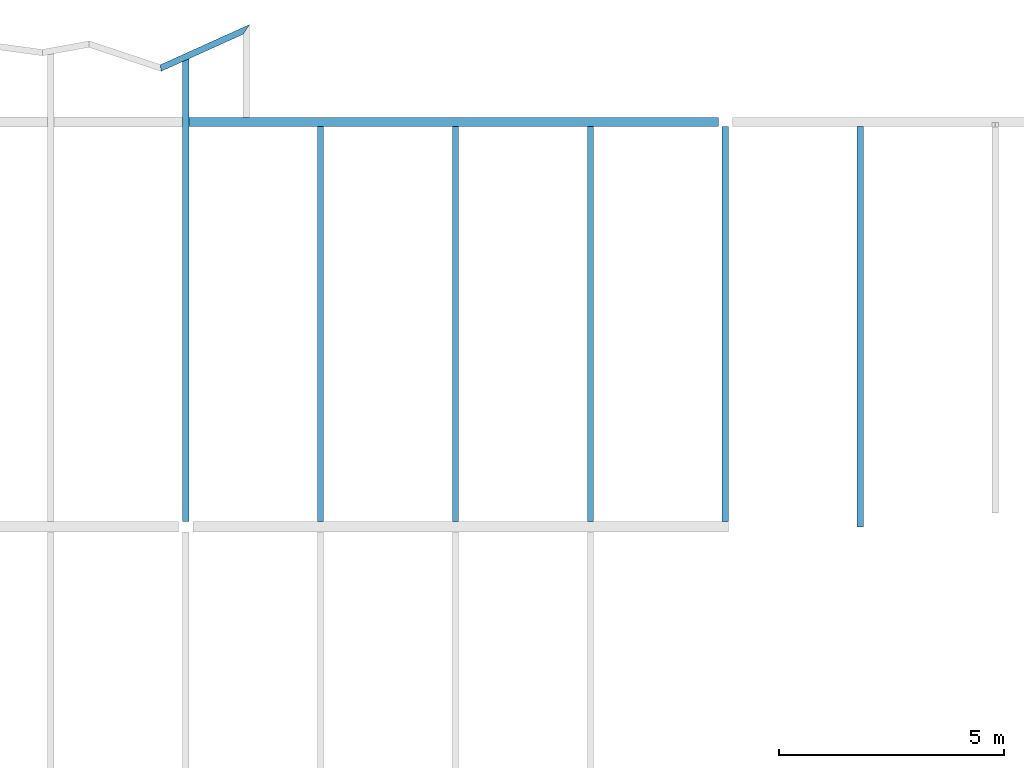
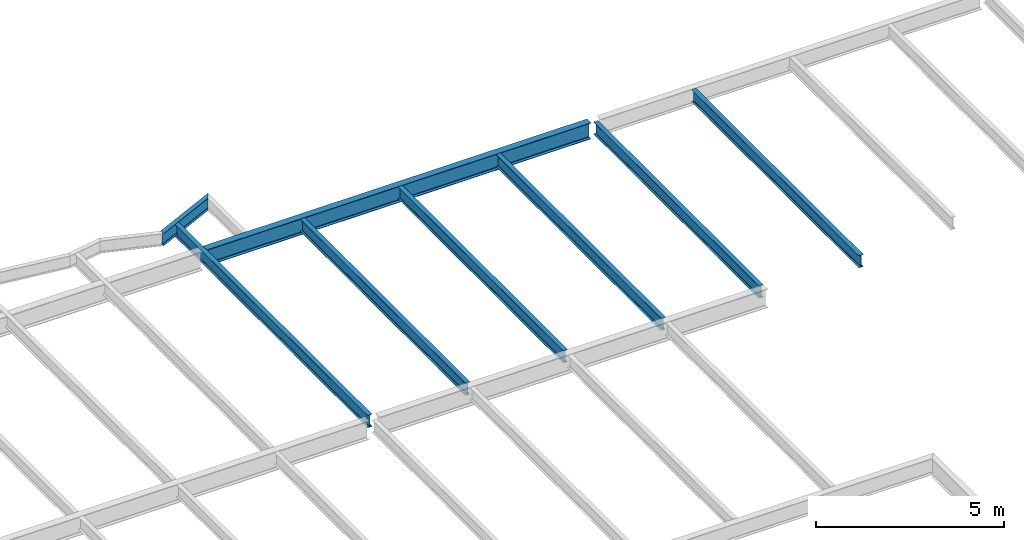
# One storey, part 9 of 21: 8 beams.
"""IFC2X3 building model written with IfcOpenShell, lengths in millimetres."""

from ifc_helpers import new_model, si_unit, origin, place, context, project, spatial, faceted_brep, material, element, save


model = new_model("IFC2X3")

# Units and contexts
context_of_model = context(None, 3, precision=1e-05, world=origin())
ifc_project = project(units=[si_unit("LENGTHUNIT", "METRE", prefix="MILLI")], contexts=[context_of_model])

# Building, storey
building = spatial("IfcBuilding", under=ifc_project, Name="Building", CompositionType="ELEMENT")
storey = spatial("IfcBuildingStorey", under=building, Name="FL3-FRM", CompositionType="ELEMENT")

# Beams
ifc_material_1 = material(Name="A992")
beam_1_placement = place(None, origin())
element("IfcBeam", 1, at=beam_1_placement, inside=storey, material=ifc_material_1, Name="Column459", context=context_of_model, shape_type="Brep", body=[
    faceted_brep([(-11930.0, 35895.5, 8345.0), (-11930.0, 36104.5, 8345.0), (-154.0, 36104.5, 8345.0), (-154.0, 35895.5, 8345.0), (-11930.0, 36104.5, 8358.3), (-154.0, 36104.5, 8358.3), (-11930.0, 36017.4, 8358.3), (-154.0, 36017.4, 8358.3), (-11930.0, 36014.2, 8358.73), (-154.0, 36014.2, 8358.73), (-11930.0, 36011.1, 8360.0), (-154.0, 36011.1, 8360.0), (-11930.0, 36008.5, 8362.02), (-154.0, 36008.5, 8362.02), (-11930.0, 36006.5, 8364.65), (-154.0, 36006.5, 8364.65), (-11930.0, 36005.2, 8367.71), (-154.0, 36005.2, 8367.71), (-11930.0, 36004.8, 8371.0), (-154.0, 36004.8, 8371.0), (-11930.0, 36004.8, 8847.0), (-154.0, 36004.8, 8847.0), (-11930.0, 36005.2, 8850.29), (-154.0, 36005.2, 8850.29), (-11930.0, 36006.5, 8853.35), (-154.0, 36006.5, 8853.35), (-11930.0, 36008.5, 8855.98), (-154.0, 36008.5, 8855.98), (-11930.0, 36011.1, 8858.0), (-154.0, 36011.1, 8858.0), (-11930.0, 36014.2, 8859.27), (-154.0, 36014.2, 8859.27), (-11930.0, 36017.4, 8859.7), (-154.0, 36017.4, 8859.7), (-11930.0, 36104.5, 8859.7), (-154.0, 36104.5, 8859.7), (-11930.0, 36104.5, 8873.0), (-154.0, 36104.5, 8873.0), (-11930.0, 35895.5, 8873.0), (-154.0, 35895.5, 8873.0), (-11930.0, 35895.5, 8859.7), (-154.0, 35895.5, 8859.7), (-11930.0, 35982.6, 8859.7), (-154.0, 35982.6, 8859.7), (-11930.0, 35985.8, 8859.27), (-154.0, 35985.8, 8859.27), (-11930.0, 35988.9, 8858.0), (-154.0, 35988.9, 8858.0), (-11930.0, 35991.5, 8855.98), (-154.0, 35991.5, 8855.98), (-11930.0, 35993.5, 8853.35), (-154.0, 35993.5, 8853.35), (-11930.0, 35994.8, 8850.29), (-154.0, 35994.8, 8850.29), (-11930.0, 35995.3, 8847.0), (-154.0, 35995.3, 8847.0), (-11930.0, 35995.3, 8371.0), (-154.0, 35995.3, 8371.0), (-11930.0, 35994.8, 8367.71), (-154.0, 35994.8, 8367.71), (-11930.0, 35993.5, 8364.65), (-154.0, 35993.5, 8364.65), (-11930.0, 35991.5, 8362.02), (-154.0, 35991.5, 8362.02), (-11930.0, 35988.9, 8360.0), (-154.0, 35988.9, 8360.0), (-11930.0, 35985.8, 8358.73), (-154.0, 35985.8, 8358.73), (-11930.0, 35982.6, 8358.3), (-154.0, 35982.6, 8358.3), (-11930.0, 35895.5, 8358.3), (-154.0, 35895.5, 8358.3)], [[[0, 1, 2, 3]], [[1, 4, 5, 2]], [[4, 6, 7, 5]], [[6, 8, 9, 7]], [[8, 10, 11, 9]], [[10, 12, 13, 11]], [[12, 14, 15, 13]], [[14, 16, 17, 15]], [[16, 18, 19, 17]], [[18, 20, 21, 19]], [[20, 22, 23, 21]], [[22, 24, 25, 23]], [[24, 26, 27, 25]], [[26, 28, 29, 27]], [[28, 30, 31, 29]], [[30, 32, 33, 31]], [[32, 34, 35, 33]], [[34, 36, 37, 35]], [[36, 38, 39, 37]], [[38, 40, 41, 39]], [[40, 42, 43, 41]], [[42, 44, 45, 43]], [[44, 46, 47, 45]], [[46, 48, 49, 47]], [[48, 50, 51, 49]], [[50, 52, 53, 51]], [[52, 54, 55, 53]], [[54, 56, 57, 55]], [[56, 58, 59, 57]], [[58, 60, 61, 59]], [[60, 62, 63, 61]], [[62, 64, 65, 63]], [[64, 66, 67, 65]], [[66, 68, 69, 67]], [[68, 70, 71, 69]], [[70, 0, 3, 71]], [[0, 70, 68, 66, 64, 62, 60, 58, 56, 54, 52, 50, 48, 46, 44, 42, 40, 38, 36, 34, 32, 30, 28, 26, 24, 22, 20, 18, 16, 14, 12, 10, 8, 6, 4, 1]], [[3, 2, 5, 7, 9, 11, 13, 15, 17, 19, 21, 23, 25, 27, 29, 31, 33, 35, 37, 39, 41, 43, 45, 47, 49, 51, 53, 55, 57, 59, 61, 63, 65, 67, 69, 71]]]),
])
ifc_material_2 = material(Name="A992")
beam_2_placement = place(None, origin())
element("IfcBeam", 2, at=beam_2_placement, inside=storey, material=ifc_material_2, Name="B413", context=context_of_model, shape_type="Brep", body=[
    faceted_brep([(-9070.0, 35895.5, 8474.0), (-8930.0, 35895.5, 8474.0), (-8930.0, 27114.5, 8474.0), (-9070.0, 27114.5, 8474.0), (-8930.0, 35895.5, 8482.8), (-8930.0, 27114.5, 8482.8), (-8986.6, 35895.5, 8482.8), (-8986.6, 27114.5, 8482.8), (-8989.24, 35895.5, 8483.15), (-8989.24, 27114.5, 8483.15), (-8991.7, 35895.5, 8484.17), (-8991.7, 27114.5, 8484.17), (-8993.81, 35895.5, 8485.79), (-8993.81, 27114.5, 8485.79), (-8995.43, 35895.5, 8487.9), (-8995.43, 27114.5, 8487.9), (-8996.45, 35895.5, 8490.36), (-8996.45, 27114.5, 8490.36), (-8996.8, 35895.5, 8493.0), (-8996.8, 27114.5, 8493.0), (-8996.8, 35895.5, 8854.0), (-8996.8, 27114.5, 8854.0), (-8996.45, 35895.5, 8856.64), (-8996.45, 27114.5, 8856.64), (-8995.43, 35895.5, 8859.1), (-8995.43, 27114.5, 8859.1), (-8993.81, 35895.5, 8861.21), (-8993.81, 27114.5, 8861.21), (-8991.7, 35895.5, 8862.83), (-8991.7, 27114.5, 8862.83), (-8989.24, 35895.5, 8863.85), (-8989.24, 27114.5, 8863.85), (-8986.6, 35895.5, 8864.2), (-8986.6, 27114.5, 8864.2), (-8930.0, 35895.5, 8864.2), (-8930.0, 27114.5, 8864.2), (-8930.0, 35895.5, 8873.0), (-8930.0, 27114.5, 8873.0), (-9070.0, 35895.5, 8873.0), (-9070.0, 27114.5, 8873.0), (-9070.0, 35895.5, 8864.2), (-9070.0, 27114.5, 8864.2), (-9013.4, 35895.5, 8864.2), (-9013.4, 27114.5, 8864.2), (-9010.76, 35895.5, 8863.85), (-9010.76, 27114.5, 8863.85), (-9008.3, 35895.5, 8862.83), (-9008.3, 27114.5, 8862.83), (-9006.19, 35895.5, 8861.21), (-9006.19, 27114.5, 8861.21), (-9004.57, 35895.5, 8859.1), (-9004.57, 27114.5, 8859.1), (-9003.55, 35895.5, 8856.64), (-9003.55, 27114.5, 8856.64), (-9003.2, 35895.5, 8854.0), (-9003.2, 27114.5, 8854.0), (-9003.2, 35895.5, 8493.0), (-9003.2, 27114.5, 8493.0), (-9003.55, 35895.5, 8490.36), (-9003.55, 27114.5, 8490.36), (-9004.57, 35895.5, 8487.9), (-9004.57, 27114.5, 8487.9), (-9006.19, 35895.5, 8485.79), (-9006.19, 27114.5, 8485.79), (-9008.3, 35895.5, 8484.17), (-9008.3, 27114.5, 8484.17), (-9010.76, 35895.5, 8483.15), (-9010.76, 27114.5, 8483.15), (-9013.4, 35895.5, 8482.8), (-9013.4, 27114.5, 8482.8), (-9070.0, 35895.5, 8482.8), (-9070.0, 27114.5, 8482.8)], [[[0, 1, 2, 3]], [[1, 4, 5, 2]], [[4, 6, 7, 5]], [[6, 8, 9, 7]], [[8, 10, 11, 9]], [[10, 12, 13, 11]], [[12, 14, 15, 13]], [[14, 16, 17, 15]], [[16, 18, 19, 17]], [[18, 20, 21, 19]], [[20, 22, 23, 21]], [[22, 24, 25, 23]], [[24, 26, 27, 25]], [[26, 28, 29, 27]], [[28, 30, 31, 29]], [[30, 32, 33, 31]], [[32, 34, 35, 33]], [[34, 36, 37, 35]], [[36, 38, 39, 37]], [[38, 40, 41, 39]], [[40, 42, 43, 41]], [[42, 44, 45, 43]], [[44, 46, 47, 45]], [[46, 48, 49, 47]], [[48, 50, 51, 49]], [[50, 52, 53, 51]], [[52, 54, 55, 53]], [[54, 56, 57, 55]], [[56, 58, 59, 57]], [[58, 60, 61, 59]], [[60, 62, 63, 61]], [[62, 64, 65, 63]], [[64, 66, 67, 65]], [[66, 68, 69, 67]], [[68, 70, 71, 69]], [[70, 0, 3, 71]], [[0, 70, 68, 66, 64, 62, 60, 58, 56, 54, 52, 50, 48, 46, 44, 42, 40, 38, 36, 34, 32, 30, 28, 26, 24, 22, 20, 18, 16, 14, 12, 10, 8, 6, 4, 1]], [[3, 2, 5, 7, 9, 11, 13, 15, 17, 19, 21, 23, 25, 27, 29, 31, 33, 35, 37, 39, 41, 43, 45, 47, 49, 51, 53, 55, 57, 59, 61, 63, 65, 67, 69, 71]]]),
])
ifc_material_3 = material(Name="A992")
beam_3_placement = place(None, origin())
element("IfcBeam", 3, at=beam_3_placement, inside=storey, material=ifc_material_3, Name="B414", context=context_of_model, shape_type="Brep", body=[
    faceted_brep([(-6070.0, 35895.5, 8474.0), (-5930.0, 35895.5, 8474.0), (-5930.0, 27114.5, 8474.0), (-6070.0, 27114.5, 8474.0), (-5930.0, 35895.5, 8482.8), (-5930.0, 27114.5, 8482.8), (-5986.6, 35895.5, 8482.8), (-5986.6, 27114.5, 8482.8), (-5989.24, 35895.5, 8483.15), (-5989.24, 27114.5, 8483.15), (-5991.7, 35895.5, 8484.17), (-5991.7, 27114.5, 8484.17), (-5993.81, 35895.5, 8485.79), (-5993.81, 27114.5, 8485.79), (-5995.43, 35895.5, 8487.9), (-5995.43, 27114.5, 8487.9), (-5996.45, 35895.5, 8490.36), (-5996.45, 27114.5, 8490.36), (-5996.8, 35895.5, 8493.0), (-5996.8, 27114.5, 8493.0), (-5996.8, 35895.5, 8854.0), (-5996.8, 27114.5, 8854.0), (-5996.45, 35895.5, 8856.64), (-5996.45, 27114.5, 8856.64), (-5995.43, 35895.5, 8859.1), (-5995.43, 27114.5, 8859.1), (-5993.81, 35895.5, 8861.21), (-5993.81, 27114.5, 8861.21), (-5991.7, 35895.5, 8862.83), (-5991.7, 27114.5, 8862.83), (-5989.24, 35895.5, 8863.85), (-5989.24, 27114.5, 8863.85), (-5986.6, 35895.5, 8864.2), (-5986.6, 27114.5, 8864.2), (-5930.0, 35895.5, 8864.2), (-5930.0, 27114.5, 8864.2), (-5930.0, 35895.5, 8873.0), (-5930.0, 27114.5, 8873.0), (-6070.0, 35895.5, 8873.0), (-6070.0, 27114.5, 8873.0), (-6070.0, 35895.5, 8864.2), (-6070.0, 27114.5, 8864.2), (-6013.4, 35895.5, 8864.2), (-6013.4, 27114.5, 8864.2), (-6010.76, 35895.5, 8863.85), (-6010.76, 27114.5, 8863.85), (-6008.3, 35895.5, 8862.83), (-6008.3, 27114.5, 8862.83), (-6006.19, 35895.5, 8861.21), (-6006.19, 27114.5, 8861.21), (-6004.57, 35895.5, 8859.1), (-6004.57, 27114.5, 8859.1), (-6003.55, 35895.5, 8856.64), (-6003.55, 27114.5, 8856.64), (-6003.2, 35895.5, 8854.0), (-6003.2, 27114.5, 8854.0), (-6003.2, 35895.5, 8493.0), (-6003.2, 27114.5, 8493.0), (-6003.55, 35895.5, 8490.36), (-6003.55, 27114.5, 8490.36), (-6004.57, 35895.5, 8487.9), (-6004.57, 27114.5, 8487.9), (-6006.19, 35895.5, 8485.79), (-6006.19, 27114.5, 8485.79), (-6008.3, 35895.5, 8484.17), (-6008.3, 27114.5, 8484.17), (-6010.76, 35895.5, 8483.15), (-6010.76, 27114.5, 8483.15), (-6013.4, 35895.5, 8482.8), (-6013.4, 27114.5, 8482.8), (-6070.0, 35895.5, 8482.8), (-6070.0, 27114.5, 8482.8)], [[[0, 1, 2, 3]], [[1, 4, 5, 2]], [[4, 6, 7, 5]], [[6, 8, 9, 7]], [[8, 10, 11, 9]], [[10, 12, 13, 11]], [[12, 14, 15, 13]], [[14, 16, 17, 15]], [[16, 18, 19, 17]], [[18, 20, 21, 19]], [[20, 22, 23, 21]], [[22, 24, 25, 23]], [[24, 26, 27, 25]], [[26, 28, 29, 27]], [[28, 30, 31, 29]], [[30, 32, 33, 31]], [[32, 34, 35, 33]], [[34, 36, 37, 35]], [[36, 38, 39, 37]], [[38, 40, 41, 39]], [[40, 42, 43, 41]], [[42, 44, 45, 43]], [[44, 46, 47, 45]], [[46, 48, 49, 47]], [[48, 50, 51, 49]], [[50, 52, 53, 51]], [[52, 54, 55, 53]], [[54, 56, 57, 55]], [[56, 58, 59, 57]], [[58, 60, 61, 59]], [[60, 62, 63, 61]], [[62, 64, 65, 63]], [[64, 66, 67, 65]], [[66, 68, 69, 67]], [[68, 70, 71, 69]], [[70, 0, 3, 71]], [[0, 70, 68, 66, 64, 62, 60, 58, 56, 54, 52, 50, 48, 46, 44, 42, 40, 38, 36, 34, 32, 30, 28, 26, 24, 22, 20, 18, 16, 14, 12, 10, 8, 6, 4, 1]], [[3, 2, 5, 7, 9, 11, 13, 15, 17, 19, 21, 23, 25, 27, 29, 31, 33, 35, 37, 39, 41, 43, 45, 47, 49, 51, 53, 55, 57, 59, 61, 63, 65, 67, 69, 71]]]),
])
ifc_material_4 = material(Name="A992")
beam_4_placement = place(None, origin())
element("IfcBeam", 4, at=beam_4_placement, inside=storey, material=ifc_material_4, Name="B415", context=context_of_model, shape_type="Brep", body=[
    faceted_brep([(-3070.0, 35895.5, 8474.0), (-2930.0, 35895.5, 8474.0), (-2930.0, 27114.5, 8474.0), (-3070.0, 27114.5, 8474.0), (-2930.0, 35895.5, 8482.8), (-2930.0, 27114.5, 8482.8), (-2986.6, 35895.5, 8482.8), (-2986.6, 27114.5, 8482.8), (-2989.24, 35895.5, 8483.15), (-2989.24, 27114.5, 8483.15), (-2991.7, 35895.5, 8484.17), (-2991.7, 27114.5, 8484.17), (-2993.81, 35895.5, 8485.79), (-2993.81, 27114.5, 8485.79), (-2995.43, 35895.5, 8487.9), (-2995.43, 27114.5, 8487.9), (-2996.45, 35895.5, 8490.36), (-2996.45, 27114.5, 8490.36), (-2996.8, 35895.5, 8493.0), (-2996.8, 27114.5, 8493.0), (-2996.8, 35895.5, 8854.0), (-2996.8, 27114.5, 8854.0), (-2996.45, 35895.5, 8856.64), (-2996.45, 27114.5, 8856.64), (-2995.43, 35895.5, 8859.1), (-2995.43, 27114.5, 8859.1), (-2993.81, 35895.5, 8861.21), (-2993.81, 27114.5, 8861.21), (-2991.7, 35895.5, 8862.83), (-2991.7, 27114.5, 8862.83), (-2989.24, 35895.5, 8863.85), (-2989.24, 27114.5, 8863.85), (-2986.6, 35895.5, 8864.2), (-2986.6, 27114.5, 8864.2), (-2930.0, 35895.5, 8864.2), (-2930.0, 27114.5, 8864.2), (-2930.0, 35895.5, 8873.0), (-2930.0, 27114.5, 8873.0), (-3070.0, 35895.5, 8873.0), (-3070.0, 27114.5, 8873.0), (-3070.0, 35895.5, 8864.2), (-3070.0, 27114.5, 8864.2), (-3013.4, 35895.5, 8864.2), (-3013.4, 27114.5, 8864.2), (-3010.76, 35895.5, 8863.85), (-3010.76, 27114.5, 8863.85), (-3008.3, 35895.5, 8862.83), (-3008.3, 27114.5, 8862.83), (-3006.19, 35895.5, 8861.21), (-3006.19, 27114.5, 8861.21), (-3004.57, 35895.5, 8859.1), (-3004.57, 27114.5, 8859.1), (-3003.55, 35895.5, 8856.64), (-3003.55, 27114.5, 8856.64), (-3003.2, 35895.5, 8854.0), (-3003.2, 27114.5, 8854.0), (-3003.2, 35895.5, 8493.0), (-3003.2, 27114.5, 8493.0), (-3003.55, 35895.5, 8490.36), (-3003.55, 27114.5, 8490.36), (-3004.57, 35895.5, 8487.9), (-3004.57, 27114.5, 8487.9), (-3006.19, 35895.5, 8485.79), (-3006.19, 27114.5, 8485.79), (-3008.3, 35895.5, 8484.17), (-3008.3, 27114.5, 8484.17), (-3010.76, 35895.5, 8483.15), (-3010.76, 27114.5, 8483.15), (-3013.4, 35895.5, 8482.8), (-3013.4, 27114.5, 8482.8), (-3070.0, 35895.5, 8482.8), (-3070.0, 27114.5, 8482.8)], [[[0, 1, 2, 3]], [[1, 4, 5, 2]], [[4, 6, 7, 5]], [[6, 8, 9, 7]], [[8, 10, 11, 9]], [[10, 12, 13, 11]], [[12, 14, 15, 13]], [[14, 16, 17, 15]], [[16, 18, 19, 17]], [[18, 20, 21, 19]], [[20, 22, 23, 21]], [[22, 24, 25, 23]], [[24, 26, 27, 25]], [[26, 28, 29, 27]], [[28, 30, 31, 29]], [[30, 32, 33, 31]], [[32, 34, 35, 33]], [[34, 36, 37, 35]], [[36, 38, 39, 37]], [[38, 40, 41, 39]], [[40, 42, 43, 41]], [[42, 44, 45, 43]], [[44, 46, 47, 45]], [[46, 48, 49, 47]], [[48, 50, 51, 49]], [[50, 52, 53, 51]], [[52, 54, 55, 53]], [[54, 56, 57, 55]], [[56, 58, 59, 57]], [[58, 60, 61, 59]], [[60, 62, 63, 61]], [[62, 64, 65, 63]], [[64, 66, 67, 65]], [[66, 68, 69, 67]], [[68, 70, 71, 69]], [[70, 0, 3, 71]], [[0, 70, 68, 66, 64, 62, 60, 58, 56, 54, 52, 50, 48, 46, 44, 42, 40, 38, 36, 34, 32, 30, 28, 26, 24, 22, 20, 18, 16, 14, 12, 10, 8, 6, 4, 1]], [[3, 2, 5, 7, 9, 11, 13, 15, 17, 19, 21, 23, 25, 27, 29, 31, 33, 35, 37, 39, 41, 43, 45, 47, 49, 51, 53, 55, 57, 59, 61, 63, 65, 67, 69, 71]]]),
])
ifc_material_5 = material(Name="A992")
beam_5_placement = place(None, origin())
element("IfcBeam", 5, at=beam_5_placement, inside=storey, material=ifc_material_5, Name="B416", context=context_of_model, shape_type="Brep", body=[
    faceted_brep([(-70.0, 35895.5, 8474.0), (70.0, 35895.5, 8474.0), (70.0, 27114.5, 8474.0), (-70.0, 27114.5, 8474.0), (70.0, 35895.5, 8482.8), (70.0, 27114.5, 8482.8), (13.4, 35895.5, 8482.8), (13.4, 27114.5, 8482.8), (10.76, 35895.5, 8483.15), (10.76, 27114.5, 8483.15), (8.3, 35895.5, 8484.17), (8.3, 27114.5, 8484.17), (6.18751, 35895.5, 8485.79), (6.18751, 27114.5, 8485.79), (4.56654, 35895.5, 8487.9), (4.56654, 27114.5, 8487.9), (3.54756, 35895.5, 8490.36), (3.54756, 27114.5, 8490.36), (3.2, 35895.5, 8493.0), (3.2, 27114.5, 8493.0), (3.2, 35895.5, 8854.0), (3.2, 27114.5, 8854.0), (3.54756, 35895.5, 8856.64), (3.54756, 27114.5, 8856.64), (4.56654, 35895.5, 8859.1), (4.56654, 27114.5, 8859.1), (6.18751, 35895.5, 8861.21), (6.18751, 27114.5, 8861.21), (8.3, 35895.5, 8862.83), (8.3, 27114.5, 8862.83), (10.76, 35895.5, 8863.85), (10.76, 27114.5, 8863.85), (13.4, 35895.5, 8864.2), (13.4, 27114.5, 8864.2), (70.0, 35895.5, 8864.2), (70.0, 27114.5, 8864.2), (70.0, 35895.5, 8873.0), (70.0, 27114.5, 8873.0), (-70.0, 35895.5, 8873.0), (-70.0, 27114.5, 8873.0), (-70.0, 35895.5, 8864.2), (-70.0, 27114.5, 8864.2), (-13.4, 35895.5, 8864.2), (-13.4, 27114.5, 8864.2), (-10.76, 35895.5, 8863.85), (-10.76, 27114.5, 8863.85), (-8.3, 35895.5, 8862.83), (-8.3, 27114.5, 8862.83), (-6.18751, 35895.5, 8861.21), (-6.18751, 27114.5, 8861.21), (-4.56654, 35895.5, 8859.1), (-4.56654, 27114.5, 8859.1), (-3.54756, 35895.5, 8856.64), (-3.54756, 27114.5, 8856.64), (-3.2, 35895.5, 8854.0), (-3.2, 27114.5, 8854.0), (-3.2, 35895.5, 8493.0), (-3.2, 27114.5, 8493.0), (-3.54756, 35895.5, 8490.36), (-3.54756, 27114.5, 8490.36), (-4.56654, 35895.5, 8487.9), (-4.56654, 27114.5, 8487.9), (-6.18751, 35895.5, 8485.79), (-6.18751, 27114.5, 8485.79), (-8.3, 35895.5, 8484.17), (-8.3, 27114.5, 8484.17), (-10.76, 35895.5, 8483.15), (-10.76, 27114.5, 8483.15), (-13.4, 35895.5, 8482.8), (-13.4, 27114.5, 8482.8), (-70.0, 35895.5, 8482.8), (-70.0, 27114.5, 8482.8)], [[[0, 1, 2, 3]], [[1, 4, 5, 2]], [[4, 6, 7, 5]], [[6, 8, 9, 7]], [[8, 10, 11, 9]], [[10, 12, 13, 11]], [[12, 14, 15, 13]], [[14, 16, 17, 15]], [[16, 18, 19, 17]], [[18, 20, 21, 19]], [[20, 22, 23, 21]], [[22, 24, 25, 23]], [[24, 26, 27, 25]], [[26, 28, 29, 27]], [[28, 30, 31, 29]], [[30, 32, 33, 31]], [[32, 34, 35, 33]], [[34, 36, 37, 35]], [[36, 38, 39, 37]], [[38, 40, 41, 39]], [[40, 42, 43, 41]], [[42, 44, 45, 43]], [[44, 46, 47, 45]], [[46, 48, 49, 47]], [[48, 50, 51, 49]], [[50, 52, 53, 51]], [[52, 54, 55, 53]], [[54, 56, 57, 55]], [[56, 58, 59, 57]], [[58, 60, 61, 59]], [[60, 62, 63, 61]], [[62, 64, 65, 63]], [[64, 66, 67, 65]], [[66, 68, 69, 67]], [[68, 70, 71, 69]], [[70, 0, 3, 71]], [[0, 70, 68, 66, 64, 62, 60, 58, 56, 54, 52, 50, 48, 46, 44, 42, 40, 38, 36, 34, 32, 30, 28, 26, 24, 22, 20, 18, 16, 14, 12, 10, 8, 6, 4, 1]], [[3, 2, 5, 7, 9, 11, 13, 15, 17, 19, 21, 23, 25, 27, 29, 31, 33, 35, 37, 39, 41, 43, 45, 47, 49, 51, 53, 55, 57, 59, 61, 63, 65, 67, 69, 71]]]),
])
ifc_material_6 = material(Name="A992")
beam_6_placement = place(None, origin())
element("IfcBeam", 6, at=beam_6_placement, inside=storey, material=ifc_material_6, Name="B424", context=context_of_model, shape_type="Brep", body=[
    faceted_brep([(2930.0, 35895.5, 8474.0), (3070.0, 35895.5, 8474.0), (3070.0, 27000.0, 8474.0), (2930.0, 27000.0, 8474.0), (3070.0, 35895.5, 8482.8), (3070.0, 27000.0, 8482.8), (3013.4, 35895.5, 8482.8), (3013.4, 27000.0, 8482.8), (3010.76, 35895.5, 8483.15), (3010.76, 27000.0, 8483.15), (3008.3, 35895.5, 8484.17), (3008.3, 27000.0, 8484.17), (3006.19, 35895.5, 8485.79), (3006.19, 27000.0, 8485.79), (3004.57, 35895.5, 8487.9), (3004.57, 27000.0, 8487.9), (3003.55, 35895.5, 8490.36), (3003.55, 27000.0, 8490.36), (3003.2, 35895.5, 8493.0), (3003.2, 27000.0, 8493.0), (3003.2, 35895.5, 8854.0), (3003.2, 27000.0, 8854.0), (3003.55, 35895.5, 8856.64), (3003.55, 27000.0, 8856.64), (3004.57, 35895.5, 8859.1), (3004.57, 27000.0, 8859.1), (3006.19, 35895.5, 8861.21), (3006.19, 27000.0, 8861.21), (3008.3, 35895.5, 8862.83), (3008.3, 27000.0, 8862.83), (3010.76, 35895.5, 8863.85), (3010.76, 27000.0, 8863.85), (3013.4, 35895.5, 8864.2), (3013.4, 27000.0, 8864.2), (3070.0, 35895.5, 8864.2), (3070.0, 27000.0, 8864.2), (3070.0, 35895.5, 8873.0), (3070.0, 27000.0, 8873.0), (2930.0, 35895.5, 8873.0), (2930.0, 27000.0, 8873.0), (2930.0, 35895.5, 8864.2), (2930.0, 27000.0, 8864.2), (2986.6, 35895.5, 8864.2), (2986.6, 27000.0, 8864.2), (2989.24, 35895.5, 8863.85), (2989.24, 27000.0, 8863.85), (2991.7, 35895.5, 8862.83), (2991.7, 27000.0, 8862.83), (2993.81, 35895.5, 8861.21), (2993.81, 27000.0, 8861.21), (2995.43, 35895.5, 8859.1), (2995.43, 27000.0, 8859.1), (2996.45, 35895.5, 8856.64), (2996.45, 27000.0, 8856.64), (2996.8, 35895.5, 8854.0), (2996.8, 27000.0, 8854.0), (2996.8, 35895.5, 8493.0), (2996.8, 27000.0, 8493.0), (2996.45, 35895.5, 8490.36), (2996.45, 27000.0, 8490.36), (2995.43, 35895.5, 8487.9), (2995.43, 27000.0, 8487.9), (2993.81, 35895.5, 8485.79), (2993.81, 27000.0, 8485.79), (2991.7, 35895.5, 8484.17), (2991.7, 27000.0, 8484.17), (2989.24, 35895.5, 8483.15), (2989.24, 27000.0, 8483.15), (2986.6, 35895.5, 8482.8), (2986.6, 27000.0, 8482.8), (2930.0, 35895.5, 8482.8), (2930.0, 27000.0, 8482.8)], [[[0, 1, 2, 3]], [[1, 4, 5, 2]], [[4, 6, 7, 5]], [[6, 8, 9, 7]], [[8, 10, 11, 9]], [[10, 12, 13, 11]], [[12, 14, 15, 13]], [[14, 16, 17, 15]], [[16, 18, 19, 17]], [[18, 20, 21, 19]], [[20, 22, 23, 21]], [[22, 24, 25, 23]], [[24, 26, 27, 25]], [[26, 28, 29, 27]], [[28, 30, 31, 29]], [[30, 32, 33, 31]], [[32, 34, 35, 33]], [[34, 36, 37, 35]], [[36, 38, 39, 37]], [[38, 40, 41, 39]], [[40, 42, 43, 41]], [[42, 44, 45, 43]], [[44, 46, 47, 45]], [[46, 48, 49, 47]], [[48, 50, 51, 49]], [[50, 52, 53, 51]], [[52, 54, 55, 53]], [[54, 56, 57, 55]], [[56, 58, 59, 57]], [[58, 60, 61, 59]], [[60, 62, 63, 61]], [[62, 64, 65, 63]], [[64, 66, 67, 65]], [[66, 68, 69, 67]], [[68, 70, 71, 69]], [[70, 0, 3, 71]], [[0, 70, 68, 66, 64, 62, 60, 58, 56, 54, 52, 50, 48, 46, 44, 42, 40, 38, 36, 34, 32, 30, 28, 26, 24, 22, 20, 18, 16, 14, 12, 10, 8, 6, 4, 1]], [[3, 2, 5, 7, 9, 11, 13, 15, 17, 19, 21, 23, 25, 27, 29, 31, 33, 35, 37, 39, 41, 43, 45, 47, 49, 51, 53, 55, 57, 59, 61, 63, 65, 67, 69, 71]]]),
])
ifc_material_7 = material(Name="A992")
beam_7_placement = place(None, origin())
element("IfcBeam", 7, at=beam_7_placement, inside=storey, material=ifc_material_7, Name="B1066", context=context_of_model, shape_type="Brep", body=[
    faceted_brep([(-12070.0, 37340.2, 8474.0), (-11930.0, 37403.5, 8474.0), (-11930.0, 27114.5, 8474.0), (-12070.0, 27114.5, 8474.0), (-11930.0, 37403.5, 8482.8), (-11930.0, 27114.5, 8482.8), (-11986.6, 37377.9, 8482.8), (-11986.6, 27114.5, 8482.8), (-11988.0, 37377.2, 8482.9), (-11988.1, 27114.5, 8482.9), (-11989.5, 37376.6, 8483.21), (-11989.5, 27114.5, 8483.21), (-11990.8, 37376.0, 8483.72), (-11990.8, 27114.5, 8483.72), (-11992.1, 37375.4, 8484.41), (-11992.1, 27114.5, 8484.42), (-11993.3, 37374.9, 8485.28), (-11993.3, 27114.5, 8485.29), (-11994.3, 37374.4, 8486.32), (-11994.3, 27114.5, 8486.32), (-11995.2, 37374.0, 8487.47), (-11995.2, 27114.5, 8487.49), (-11995.9, 37373.7, 8488.76), (-11995.9, 27114.5, 8488.76), (-11996.4, 37373.5, 8490.12), (-11996.4, 27114.5, 8490.13), (-11996.7, 37373.3, 8491.54), (-11996.7, 27114.5, 8491.55), (-11996.8, 37373.3, 8493.0), (-11996.8, 27114.5, 8493.0), (-11996.8, 37373.3, 8854.0), (-11996.8, 27114.5, 8854.0), (-11996.7, 37373.3, 8855.46), (-11996.7, 27114.5, 8855.45), (-11996.4, 37373.5, 8856.88), (-11996.4, 27114.5, 8856.87), (-11995.9, 37373.7, 8858.24), (-11995.9, 27114.5, 8858.24), (-11995.2, 37374.0, 8859.53), (-11995.2, 27114.5, 8859.51), (-11994.3, 37374.4, 8860.68), (-11994.3, 27114.5, 8860.68), (-11993.3, 37374.9, 8861.72), (-11993.3, 27114.5, 8861.71), (-11992.1, 37375.4, 8862.59), (-11992.1, 27114.5, 8862.58), (-11990.8, 37376.0, 8863.28), (-11990.8, 27114.5, 8863.28), (-11989.5, 37376.6, 8863.79), (-11989.5, 27114.5, 8863.79), (-11988.0, 37377.2, 8864.1), (-11988.1, 27114.5, 8864.1), (-11986.6, 37377.9, 8864.2), (-11986.6, 27114.5, 8864.2), (-11930.0, 37403.5, 8864.2), (-11930.0, 27114.5, 8864.2), (-11930.0, 37403.5, 8873.0), (-11930.0, 27114.5, 8873.0), (-12070.0, 37340.2, 8873.0), (-12070.0, 27114.5, 8873.0), (-12070.0, 37340.2, 8864.2), (-12070.0, 27114.5, 8864.2), (-12013.4, 37365.8, 8864.2), (-12013.4, 27114.5, 8864.2), (-12012.0, 37366.4, 8864.1), (-12011.9, 27114.5, 8864.1), (-12010.5, 37367.1, 8863.79), (-12010.5, 27114.5, 8863.79), (-12009.2, 37367.7, 8863.28), (-12009.2, 27114.5, 8863.28), (-12007.9, 37368.3, 8862.59), (-12007.9, 27114.5, 8862.58), (-12006.7, 37368.8, 8861.72), (-12006.7, 27114.5, 8861.71), (-12005.7, 37369.3, 8860.68), (-12005.7, 27114.5, 8860.68), (-12004.8, 37369.7, 8859.53), (-12004.8, 27114.5, 8859.51), (-12004.1, 37370.0, 8858.24), (-12004.1, 27114.5, 8858.24), (-12003.6, 37370.2, 8856.88), (-12003.6, 27114.5, 8856.87), (-12003.3, 37370.3, 8855.46), (-12003.3, 27114.5, 8855.45), (-12003.2, 37370.4, 8854.0), (-12003.2, 27114.5, 8854.0), (-12003.2, 37370.4, 8493.0), (-12003.2, 27114.5, 8493.0), (-12003.3, 37370.3, 8491.54), (-12003.3, 27114.5, 8491.55), (-12003.6, 37370.2, 8490.12), (-12003.6, 27114.5, 8490.13), (-12004.1, 37370.0, 8488.76), (-12004.1, 27114.5, 8488.76), (-12004.8, 37369.7, 8487.47), (-12004.8, 27114.5, 8487.49), (-12005.7, 37369.3, 8486.32), (-12005.7, 27114.5, 8486.32), (-12006.7, 37368.8, 8485.28), (-12006.7, 27114.5, 8485.29), (-12007.9, 37368.3, 8484.41), (-12007.9, 27114.5, 8484.42), (-12009.2, 37367.7, 8483.72), (-12009.2, 27114.5, 8483.72), (-12010.5, 37367.1, 8483.21), (-12010.5, 27114.5, 8483.21), (-12012.0, 37366.4, 8482.9), (-12011.9, 27114.5, 8482.9), (-12013.4, 37365.8, 8482.8), (-12013.4, 27114.5, 8482.8), (-12070.0, 37340.2, 8482.8), (-12070.0, 27114.5, 8482.8)], [[[0, 1, 2, 3]], [[1, 4, 5, 2]], [[4, 6, 7, 5]], [[6, 8, 9, 7]], [[8, 10, 11, 9]], [[10, 12, 13, 11]], [[12, 14, 15, 13]], [[14, 16, 17, 15]], [[16, 18, 19, 17]], [[18, 20, 21, 19]], [[20, 22, 23, 21]], [[22, 24, 25, 23]], [[24, 26, 27, 25]], [[26, 28, 29, 27]], [[28, 30, 31, 29]], [[30, 32, 33, 31]], [[32, 34, 35, 33]], [[34, 36, 37, 35]], [[36, 38, 39, 37]], [[38, 40, 41, 39]], [[40, 42, 43, 41]], [[42, 44, 45, 43]], [[44, 46, 47, 45]], [[46, 48, 49, 47]], [[48, 50, 51, 49]], [[50, 52, 53, 51]], [[52, 54, 55, 53]], [[54, 56, 57, 55]], [[56, 58, 59, 57]], [[58, 60, 61, 59]], [[60, 62, 63, 61]], [[62, 64, 65, 63]], [[64, 66, 67, 65]], [[66, 68, 69, 67]], [[68, 70, 71, 69]], [[70, 72, 73, 71]], [[72, 74, 75, 73]], [[74, 76, 77, 75]], [[76, 78, 79, 77]], [[78, 80, 81, 79]], [[80, 82, 83, 81]], [[82, 84, 85, 83]], [[84, 86, 87, 85]], [[86, 88, 89, 87]], [[88, 90, 91, 89]], [[90, 92, 93, 91]], [[92, 94, 95, 93]], [[94, 96, 97, 95]], [[96, 98, 99, 97]], [[98, 100, 101, 99]], [[100, 102, 103, 101]], [[102, 104, 105, 103]], [[104, 106, 107, 105]], [[106, 108, 109, 107]], [[108, 110, 111, 109]], [[110, 0, 3, 111]], [[0, 110, 108, 106, 104, 102, 100, 98, 96, 94, 92, 90, 88, 86, 84, 82, 80, 78, 76, 74, 72, 70, 68, 66, 64, 62, 60, 58, 56, 54, 52, 50, 48, 46, 44, 42, 40, 38, 36, 34, 32, 30, 28, 26, 24, 22, 20, 18, 16, 14, 12, 10, 8, 6, 4, 1]], [[3, 2, 5, 7, 9, 11, 13, 15, 17, 19, 21, 23, 25, 27, 29, 31, 33, 35, 37, 39, 41, 43, 45, 47, 49, 51, 53, 55, 57, 59, 61, 63, 65, 67, 69, 71, 73, 75, 77, 79, 81, 83, 85, 87, 89, 91, 93, 95, 97, 99, 101, 103, 105, 107, 109, 111]]]),
])
ifc_material_8 = material(Name="A992")
beam_8_placement = place(None, origin())
element("IfcBeam", 8, at=beam_8_placement, inside=storey, material=ifc_material_8, Name="B1067", context=context_of_model, shape_type="Brep", body=[
    faceted_brep([(-12548.9, 37124.0, 8474.0), (-12556.6, 37274.1, 8474.0), (-10580.0, 38166.6, 8474.0), (-10720.0, 37949.8, 8474.0), (-12556.6, 37274.1, 8482.8), (-10580.0, 38166.6, 8482.8), (-12553.5, 37213.4, 8482.8), (-10636.6, 38079.0, 8482.8), (-12553.4, 37211.7, 8482.92), (-10638.2, 38076.5, 8482.89), (-12553.3, 37210.1, 8483.3), (-10639.7, 38074.1, 8483.28), (-12553.2, 37208.5, 8483.91), (-10641.2, 38071.9, 8483.89), (-12553.1, 37207.0, 8484.74), (-10642.5, 38069.8, 8484.68), (-12553.1, 37205.7, 8485.79), (-10643.8, 38067.8, 8485.79), (-12553.0, 37204.6, 8487.0), (-10644.8, 38066.3, 8486.92), (-12553.0, 37203.7, 8488.36), (-10645.7, 38064.9, 8488.27), (-12552.9, 37203.0, 8489.84), (-10646.3, 38064.0, 8489.82), (-12552.9, 37202.7, 8491.4), (-10646.6, 38063.5, 8491.36), (-12552.9, 37202.5, 8493.0), (-10646.8, 38063.2, 8493.0), (-12552.9, 37202.5, 8854.0), (-10646.8, 38063.2, 8854.0), (-12552.9, 37202.7, 8855.6), (-10646.6, 38063.5, 8855.64), (-12552.9, 37203.0, 8857.16), (-10646.3, 38064.0, 8857.18), (-12553.0, 37203.7, 8858.64), (-10645.7, 38064.9, 8858.73), (-12553.0, 37204.6, 8860.0), (-10644.8, 38066.3, 8860.08), (-12553.1, 37205.7, 8861.21), (-10643.8, 38067.8, 8861.21), (-12553.1, 37207.0, 8862.26), (-10642.5, 38069.8, 8862.32), (-12553.2, 37208.5, 8863.09), (-10641.2, 38071.9, 8863.11), (-12553.3, 37210.1, 8863.7), (-10639.7, 38074.1, 8863.72), (-12553.4, 37211.7, 8864.08), (-10638.2, 38076.5, 8864.11), (-12553.5, 37213.4, 8864.2), (-10636.6, 38079.0, 8864.2), (-12556.6, 37274.1, 8864.2), (-10580.0, 38166.6, 8864.2), (-12556.6, 37274.1, 8873.0), (-10580.0, 38166.6, 8873.0), (-12548.9, 37124.0, 8873.0), (-10720.0, 37949.8, 8873.0), (-12548.9, 37124.0, 8864.2), (-10720.0, 37949.8, 8864.2), (-12552.0, 37184.7, 8864.2), (-10663.4, 38037.5, 8864.2), (-12552.1, 37186.4, 8864.08), (-10661.8, 38039.9, 8864.11), (-12552.2, 37188.1, 8863.7), (-10660.3, 38042.3, 8863.72), (-12552.2, 37189.7, 8863.09), (-10658.8, 38044.6, 8863.11), (-12552.3, 37191.1, 8862.26), (-10657.5, 38046.7, 8862.32), (-12552.4, 37192.4, 8861.21), (-10656.2, 38048.6, 8861.21), (-12552.4, 37193.5, 8860.0), (-10655.2, 38050.2, 8860.08), (-12552.5, 37194.5, 8858.64), (-10654.3, 38051.5, 8858.73), (-12552.5, 37195.1, 8857.16), (-10653.7, 38052.4, 8857.18), (-12552.5, 37195.5, 8855.6), (-10653.4, 38053.0, 8855.64), (-12552.5, 37195.6, 8854.0), (-10653.2, 38053.3, 8854.0), (-12552.5, 37195.6, 8493.0), (-10653.2, 38053.3, 8493.0), (-12552.5, 37195.5, 8491.4), (-10653.4, 38053.0, 8491.36), (-12552.5, 37195.1, 8489.84), (-10653.7, 38052.4, 8489.82), (-12552.5, 37194.5, 8488.36), (-10654.3, 38051.5, 8488.27), (-12552.4, 37193.5, 8487.0), (-10655.2, 38050.2, 8486.92), (-12552.4, 37192.4, 8485.79), (-10656.2, 38048.6, 8485.79), (-12552.3, 37191.1, 8484.74), (-10657.5, 38046.7, 8484.68), (-12552.2, 37189.7, 8483.91), (-10658.8, 38044.6, 8483.89), (-12552.2, 37188.1, 8483.3), (-10660.3, 38042.3, 8483.28), (-12552.1, 37186.4, 8482.92), (-10661.8, 38039.9, 8482.89), (-12552.0, 37184.7, 8482.8), (-10663.4, 38037.5, 8482.8), (-12548.9, 37124.0, 8482.8), (-10720.0, 37949.8, 8482.8)], [[[0, 1, 2, 3]], [[1, 4, 5, 2]], [[4, 6, 7, 5]], [[6, 8, 9, 7]], [[8, 10, 11, 9]], [[10, 12, 13, 11]], [[12, 14, 15, 13]], [[14, 16, 17, 15]], [[16, 18, 19, 17]], [[18, 20, 21, 19]], [[20, 22, 23, 21]], [[22, 24, 25, 23]], [[24, 26, 27, 25]], [[26, 28, 29, 27]], [[28, 30, 31, 29]], [[30, 32, 33, 31]], [[32, 34, 35, 33]], [[34, 36, 37, 35]], [[36, 38, 39, 37]], [[38, 40, 41, 39]], [[40, 42, 43, 41]], [[42, 44, 45, 43]], [[44, 46, 47, 45]], [[46, 48, 49, 47]], [[48, 50, 51, 49]], [[50, 52, 53, 51]], [[52, 54, 55, 53]], [[54, 56, 57, 55]], [[56, 58, 59, 57]], [[58, 60, 61, 59]], [[60, 62, 63, 61]], [[62, 64, 65, 63]], [[64, 66, 67, 65]], [[66, 68, 69, 67]], [[68, 70, 71, 69]], [[70, 72, 73, 71]], [[72, 74, 75, 73]], [[74, 76, 77, 75]], [[76, 78, 79, 77]], [[78, 80, 81, 79]], [[80, 82, 83, 81]], [[82, 84, 85, 83]], [[84, 86, 87, 85]], [[86, 88, 89, 87]], [[88, 90, 91, 89]], [[90, 92, 93, 91]], [[92, 94, 95, 93]], [[94, 96, 97, 95]], [[96, 98, 99, 97]], [[98, 100, 101, 99]], [[100, 102, 103, 101]], [[102, 0, 3, 103]], [[0, 102, 100, 98, 96, 94, 92, 90, 88, 86, 84, 82, 80, 78, 76, 74, 72, 70, 68, 66, 64, 62, 60, 58, 56, 54, 52, 50, 48, 46, 44, 42, 40, 38, 36, 34, 32, 30, 28, 26, 24, 22, 20, 18, 16, 14, 12, 10, 8, 6, 4, 1]], [[3, 2, 5, 7, 9, 11, 13, 15, 17, 19, 21, 23, 25, 27, 29, 31, 33, 35, 37, 39, 41, 43, 45, 47, 49, 51, 53, 55, 57, 59, 61, 63, 65, 67, 69, 71, 73, 75, 77, 79, 81, 83, 85, 87, 89, 91, 93, 95, 97, 99, 101, 103]]]),
])

save(model, "model.ifc")
